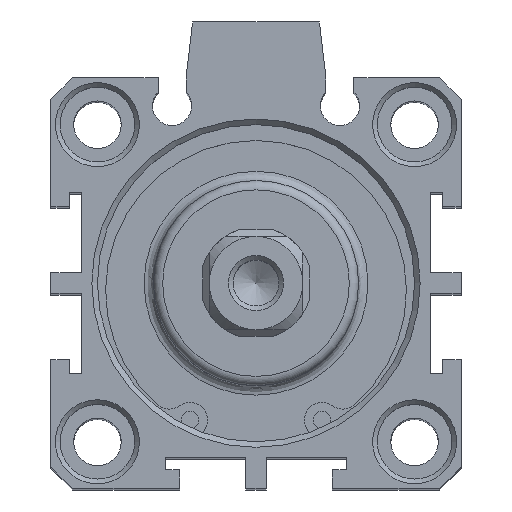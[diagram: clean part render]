
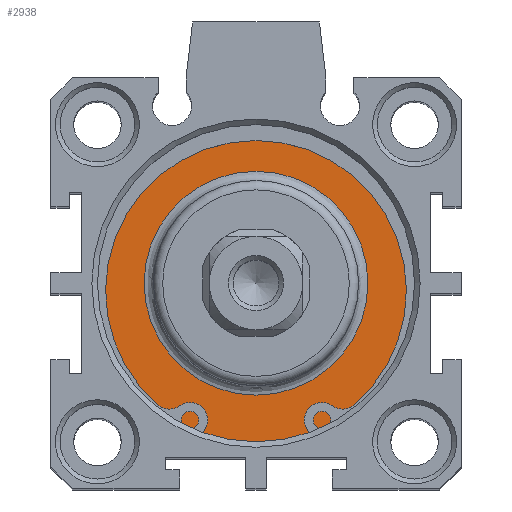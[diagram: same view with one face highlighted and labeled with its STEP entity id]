
A CAD part, top view. The second image highlights one B-rep face of the part: STEP entity #2938.
In plain terms, the highlighted planar face has unit normal (0, 0, 1).
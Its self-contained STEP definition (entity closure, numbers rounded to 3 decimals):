
#2887=CARTESIAN_POINT('',(-3.726,11.88,95.3));
#2888=VERTEX_POINT('',#2887);
#2889=CARTESIAN_POINT('',(-3.726,-0.12,95.3));
#2890=DIRECTION('',(0.0,0.0,1.0));
#2891=DIRECTION('',(0.0,-1.0,0.0));
#2892=AXIS2_PLACEMENT_3D('',#2889,#2890,#2891);
#2893=CIRCLE('',#2892,12.);
#2894=EDGE_CURVE('',#2888,#2888,#2893,.T.);
#2919=CARTESIAN_POINT('',(-3.726,13.88,95.3));
#2920=DIRECTION('',(0.0,0.0,1.0));
#2921=DIRECTION('',(1.0,0.0,0.0));
#2922=AXIS2_PLACEMENT_3D('',#2919,#2920,#2921);
#2923=PLANE('',#2922);
#2924=CARTESIAN_POINT('',(-3.726,16.88,95.3));
#2925=VERTEX_POINT('',#2924);
#2926=CARTESIAN_POINT('',(-3.726,-0.12,95.3));
#2927=DIRECTION('',(0.0,0.0,-1.0));
#2928=DIRECTION('',(0.0,1.0,0.0));
#2929=AXIS2_PLACEMENT_3D('',#2926,#2927,#2928);
#2930=CIRCLE('',#2929,17.);
#2931=EDGE_CURVE('',#2925,#2925,#2930,.T.);
#2932=ORIENTED_EDGE('',*,*,#2931,.F.);
#2933=EDGE_LOOP('',(#2932));
#2934=FACE_OUTER_BOUND('',#2933,.T.);
#2935=ORIENTED_EDGE('',*,*,#2894,.F.);
#2936=EDGE_LOOP('',(#2935));
#2937=FACE_BOUND('',#2936,.T.);
#2938=ADVANCED_FACE('',(#2934,#2937),#2923,.T.);
